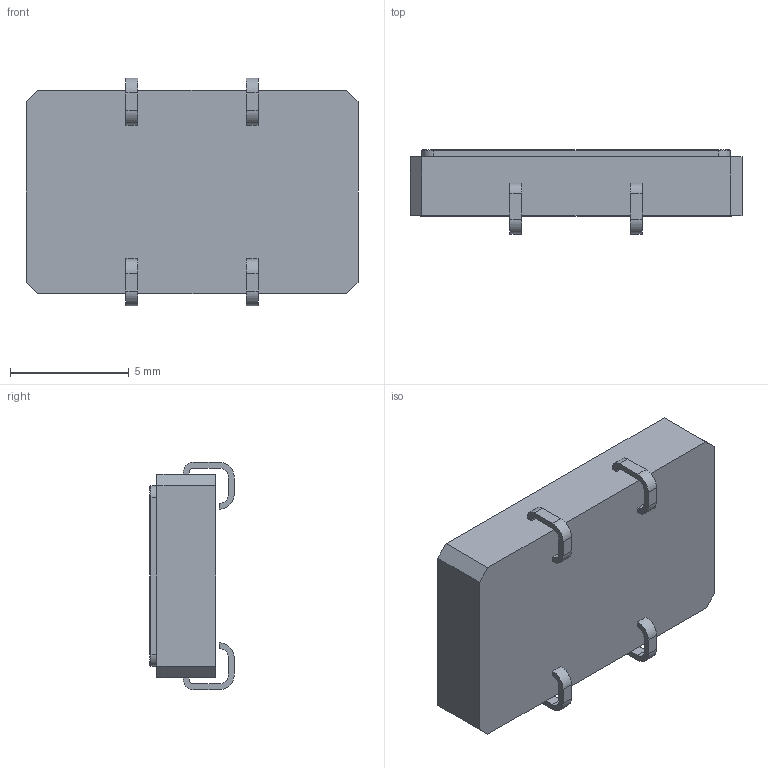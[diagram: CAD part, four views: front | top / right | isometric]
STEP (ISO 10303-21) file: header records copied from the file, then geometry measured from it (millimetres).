
FILE_DESCRIPTION (( 'STEP AP214' ), '1' );
FILE_NAME ( 'OSCJ508P1400X860X356-4.STEP', '2014-04-11T12:31:19', ( '' ), ( '' ), 'FPX Expert 2013', 'PCB Libraries', '' );
FILE_SCHEMA (( 'AUTOMOTIVE_DESIGN' ));
Length unit declared in the file: millimetre
Products named in the file (1): OSCJ508P1400X860X356-4
Bounding box: 14 x 3.56 x 9.6 mm (x, y, z)
Volume: 329.4 mm3; surface area: 385.2 mm2
Topology: 5 solids, 5 shells, 102 faces, 246 edges, 156 vertices
Faces by surface type: plane 64, cylinder 32, torus 6
Entity records: 3480 total; most frequent: DIRECTION 542, CARTESIAN_POINT 537, ORIENTED_EDGE 524, EDGE_CURVE 262, VECTOR 188, LINE 188, AXIS2_PLACEMENT_3D 177, VERTEX_POINT 172
